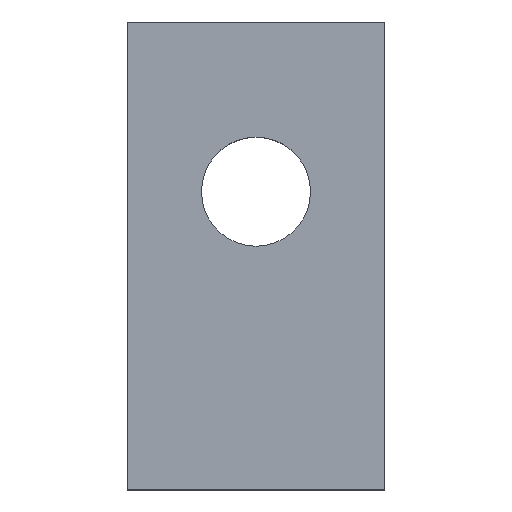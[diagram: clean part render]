
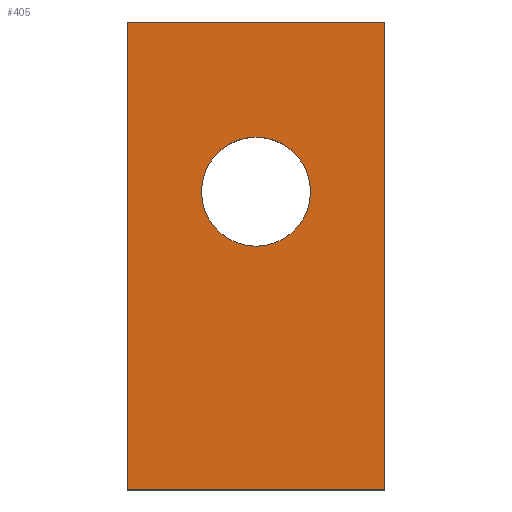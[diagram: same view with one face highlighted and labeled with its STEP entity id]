
A CAD part, top view. The second image highlights one B-rep face of the part: STEP entity #405.
In plain terms, the highlighted planar face has unit normal (0, 0, 1) as drawn and (1, 0, 0) by its records, which use the part's own axes.
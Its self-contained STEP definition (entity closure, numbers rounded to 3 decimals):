
#228=DIRECTION('',(0.,1.,0.));
#229=VECTOR('',#228,45.5);
#230=CARTESIAN_POINT('',(5.,-29.,12.5));
#231=LINE('',#230,#229);
#235=DIRECTION('',(0.,0.,-1.));
#236=VECTOR('',#235,25.);
#237=CARTESIAN_POINT('',(5.,16.5,12.5));
#238=LINE('',#237,#236);
#242=DIRECTION('',(0.,-1.,0.));
#243=VECTOR('',#242,45.5);
#244=CARTESIAN_POINT('',(5.,16.5,-12.5));
#245=LINE('',#244,#243);
#249=DIRECTION('',(0.,0.,1.));
#250=VECTOR('',#249,25.);
#251=CARTESIAN_POINT('',(5.,-29.,-12.5));
#252=LINE('',#251,#250);
#256=CARTESIAN_POINT('',(5.,0.,0.));
#257=DIRECTION('',(1.,0.,0.));
#258=DIRECTION('',(0.,0.,-1.));
#259=AXIS2_PLACEMENT_3D('',#256,#257,#258);
#264=CARTESIAN_POINT('',(5.,0.,0.));
#265=DIRECTION('',(1.,0.,0.));
#266=DIRECTION('',(0.,0.,1.));
#267=AXIS2_PLACEMENT_3D('',#264,#265,#266);
#298=CARTESIAN_POINT('',(5.,16.5,12.5));
#299=VERTEX_POINT('',#298);
#300=CARTESIAN_POINT('',(5.,-29.,12.5));
#301=VERTEX_POINT('',#300);
#302=CARTESIAN_POINT('',(5.,16.5,-12.5));
#303=VERTEX_POINT('',#302);
#304=CARTESIAN_POINT('',(5.,-29.,-12.5));
#305=VERTEX_POINT('',#304);
#306=CARTESIAN_POINT('',(5.,0.,-5.3));
#307=CARTESIAN_POINT('',(5.,0.,5.3));
#308=VERTEX_POINT('',#306);
#309=VERTEX_POINT('',#307);
#388=CARTESIAN_POINT('',(5.,0.,0.));
#389=DIRECTION('',(1.,0.,0.));
#390=DIRECTION('',(0.,0.,-1.));
#391=AXIS2_PLACEMENT_3D('',#388,#389,#390);
#392=PLANE('',#391);
#393=ORIENTED_EDGE('',*,*,#340,.T.);
#394=ORIENTED_EDGE('',*,*,#355,.T.);
#395=ORIENTED_EDGE('',*,*,#369,.T.);
#396=ORIENTED_EDGE('',*,*,#382,.T.);
#397=EDGE_LOOP('',(#393,#394,#395,#396));
#398=FACE_OUTER_BOUND('',#397,.F.);
#400=ORIENTED_EDGE('',*,*,#399,.T.);
#402=ORIENTED_EDGE('',*,*,#401,.T.);
#403=EDGE_LOOP('',(#400,#402));
#404=FACE_BOUND('',#403,.F.);
#260=CIRCLE('',#259,5.3);
#268=CIRCLE('',#267,5.3);
#340=EDGE_CURVE('',#301,#299,#231,.T.);
#355=EDGE_CURVE('',#299,#303,#238,.T.);
#369=EDGE_CURVE('',#303,#305,#245,.T.);
#382=EDGE_CURVE('',#305,#301,#252,.T.);
#399=EDGE_CURVE('',#308,#309,#260,.T.);
#401=EDGE_CURVE('',#309,#308,#268,.T.);
#405=ADVANCED_FACE('',(#398,#404),#392,.T.);
